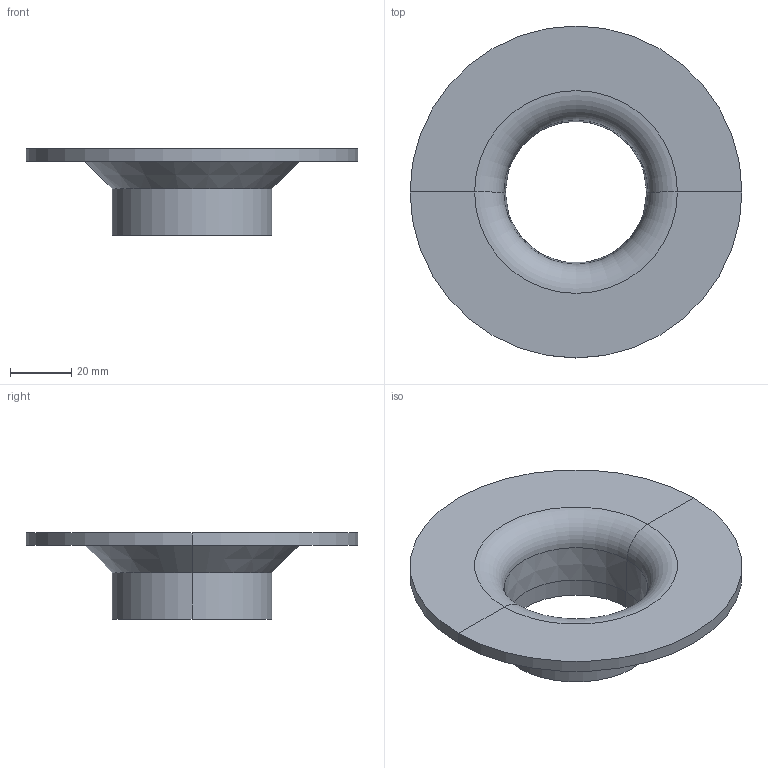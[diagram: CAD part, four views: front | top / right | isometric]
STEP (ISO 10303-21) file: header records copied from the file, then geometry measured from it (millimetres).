
FILE_DESCRIPTION(('BendCAD AP242 PMI export'),'2;1');
FILE_NAME('bendcad.step','',('BendCAD'),('BendCAD'),'BendCAD','BendCAD','');
FILE_SCHEMA(('AP242_MANAGED_MODEL_BASED_3D_ENGINEERING_MIM_LF'));
Length unit declared in the file: millimetre
Products named in the file (1): BENDCAD
Bounding box: 108 x 108 x 28 mm (x, y, z)
Volume: 44192.3 mm3; surface area: 22982.3 mm2
Topology: 1 solids, 1 shells, 18 faces, 36 edges, 18 vertices
Faces by surface type: plane 6, cylinder 6, cone 4, torus 2
Entity records: 482 total; most frequent: DIRECTION 86, CARTESIAN_POINT 77, ORIENTED_EDGE 72, AXIS2_PLACEMENT_3D 37, EDGE_CURVE 36, CIRCLE 18, TRIMMED_CURVE 18, VERTEX_POINT 18
